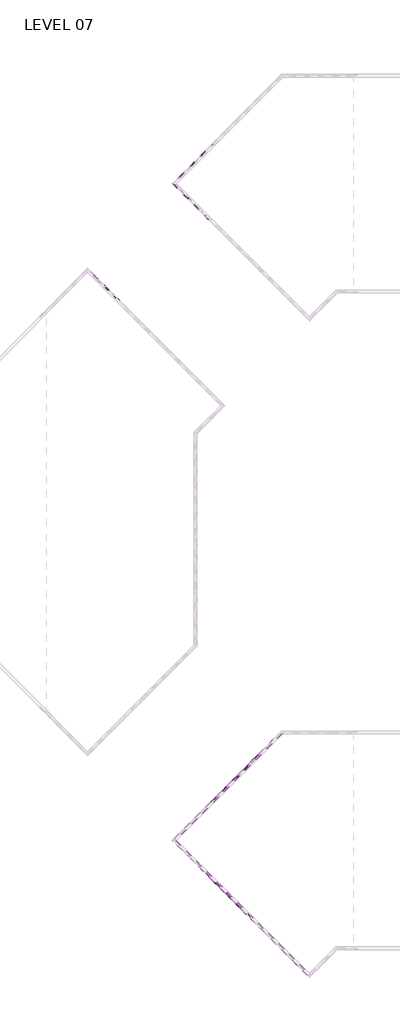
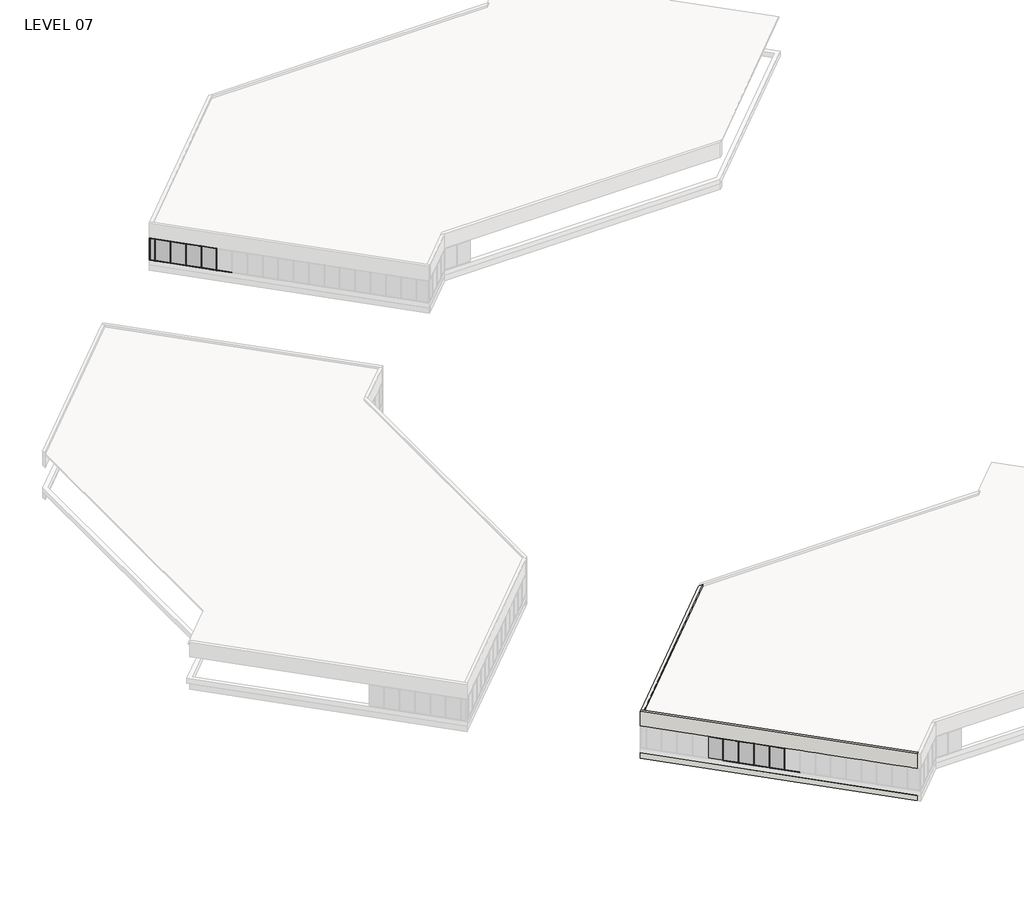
# One storey, part 7 of 18: 77 members, 24 plates, 4 walls.
"""IFC4 building model written with IfcOpenShell, lengths in millimetres."""

from ifc_helpers import new_model, si_unit, origin, place, context, project, spatial, faceted_brep, transform, mapped, element, save
from components import member_5247f267, member_e44af9ab, member_800970d4, member_ac5115e9, member_25b26a38, member_ed9c17d6, plate_67294edd, plate_048e4634, plate_aaac5d3d, plate_c01932d8, plate_6d527a83, plate_e0fd5134, plate_62af1d3c, plate_dca6a18a

model = new_model("IFC4")

# Units and contexts
model_context = context("Model", 3, world=origin())
ifc_project = project(units=[si_unit("LENGTHUNIT", "METRE", prefix="MILLI")], contexts=[model_context])

# Site, building, storey
site = spatial("IfcSite", under=ifc_project)
building = spatial("IfcBuilding", under=site)
storey = spatial("IfcBuildingStorey", under=building, Name="LEVEL 07", Elevation=23368.0)

# Members
placement = place(None, origin())
member_shape = member_5247f267(model_context)
element("IfcMember", 1, ObjectType="Rectangular Mullion : 2\" x 4.5\" rectangular", at=placement, inside=storey, context=model_context, shape_type="MappedRepresentation", body=[
    mapped(member_shape, transform((7242.502553, 22712.3915608, 23368.0), x_axis=(0.0, 0.0, -1.0), y_axis=(-0.7071067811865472, 0.7071067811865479, 0.0), z_axis=(0.7071067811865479, 0.7071067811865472, 0.0))),
])
element("IfcMember", 2, ObjectType="Rectangular Mullion : 2\" x 4.5\" rectangular", at=placement, inside=storey, context=model_context, shape_type="MappedRepresentation", body=[
    mapped(member_shape, transform((6164.8718185, 21634.7608262, 23368.0), x_axis=(0.0, 0.0, -1.0), y_axis=(-0.7071067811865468, 0.7071067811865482, 0.0), z_axis=(0.7071067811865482, 0.7071067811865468, 0.0))),
])
element("IfcMember", 3, ObjectType="Rectangular Mullion : 2\" x 4.5\" rectangular", at=placement, inside=storey, context=model_context, shape_type="MappedRepresentation", body=[
    mapped(member_shape, transform((4009.6251512, 19479.5141589, 23368.0), x_axis=(0.0, 0.0, -1.0), y_axis=(-0.7071067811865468, 0.7071067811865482, 0.0), z_axis=(0.7071067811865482, 0.7071067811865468, 0.0))),
])
element("IfcMember", 4, ObjectType="Rectangular Mullion : 2\" x 4.5\" rectangular", at=placement, inside=storey, context=model_context, shape_type="MappedRepresentation", body=[
    mapped(member_shape, transform((2932.0092184, 18401.8982261, 23368.0), x_axis=(0.0, 0.0, -1.0), y_axis=(-0.7071067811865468, 0.7071067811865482, 0.0), z_axis=(0.7071067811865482, 0.7071067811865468, 0.0))),
])
element("IfcMember", 5, ObjectType="Rectangular Mullion : 2\" x 4.5\" rectangular", at=placement, inside=storey, context=model_context, shape_type="MappedRepresentation", body=[
    mapped(member_shape, transform((1854.3932855, 17324.2822933, 23368.0), x_axis=(0.0, 0.0, -1.0), y_axis=(-0.7071067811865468, 0.7071067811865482, 0.0), z_axis=(0.7071067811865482, 0.7071067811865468, 0.0))),
])
element("IfcMember", 6, ObjectType="Rectangular Mullion : 2\" x 4.5\" rectangular", at=placement, inside=storey, context=model_context, shape_type="MappedRepresentation", body=[
    mapped(member_shape, transform((776.7773527, 16246.6663605, 23368.0), x_axis=(0.0, 0.0, -1.0), y_axis=(-0.7071067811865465, 0.7071067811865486, 0.0), z_axis=(0.7071067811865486, 0.7071067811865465, 0.0))),
])
element("IfcMember", 7, ObjectType="Rectangular Mullion : 2\" x 4.5\" rectangular", at=placement, inside=storey, context=model_context, shape_type="MappedRepresentation", body=[
    mapped(member_shape, transform((5087.2484848, 20557.1374926, 23368.0), x_axis=(0.0, 0.0, -1.0), y_axis=(-0.7071067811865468, 0.7071067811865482, 0.0), z_axis=(0.7071067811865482, 0.7071067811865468, 0.0))),
])
element("IfcMember", 8, ObjectType="Rectangular Mullion : 2\" x 4.5\" rectangular", at=placement, inside=storey, context=model_context, shape_type="MappedRepresentation", body=[
    mapped(member_shape, transform((812.6774444, 4705.5492921, 23368.0), x_axis=(0.0, 0.0, -1.0), y_axis=(-0.7071067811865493, -0.7071067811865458, 0.0), z_axis=(-0.7071067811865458, 0.7071067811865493, 0.0))),
])
element("IfcMember", 9, ObjectType="Rectangular Mullion : 2\" x 4.5\" rectangular", at=placement, inside=storey, context=model_context, shape_type="MappedRepresentation", body=[
    mapped(member_shape, transform((1890.2724444, 3627.9542921, 23368.0), x_axis=(0.0, 0.0, -1.0), y_axis=(-0.7071067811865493, -0.7071067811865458, 0.0), z_axis=(-0.7071067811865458, 0.7071067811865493, 0.0))),
])
element("IfcMember", 10, ObjectType="Rectangular Mullion : 2\" x 4.5\" rectangular", at=placement, inside=storey, context=model_context, shape_type="MappedRepresentation", body=[
    mapped(member_shape, transform((2967.8674444, 2550.3592921, 23368.0), x_axis=(0.0, 0.0, -1.0), y_axis=(-0.707106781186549, -0.7071067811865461, 0.0), z_axis=(-0.7071067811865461, 0.707106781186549, 0.0))),
])
element("IfcMember", 11, ObjectType="Rectangular Mullion : 2\" x 4.5\" rectangular", at=placement, inside=storey, context=model_context, shape_type="MappedRepresentation", body=[
    mapped(member_shape, transform((-3533.9094563, 105983.7989843, 23368.0), x_axis=(0.0, 0.0, -1.0), y_axis=(-0.7071067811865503, 0.7071067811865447, 0.0), z_axis=(0.7071067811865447, 0.7071067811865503, 0.0))),
])
element("IfcMember", 12, ObjectType="Rectangular Mullion : 2\" x 4.5\" rectangular", at=placement, inside=storey, context=model_context, shape_type="MappedRepresentation", body=[
    mapped(member_shape, transform((-301.0172527, 109216.6911879, 23368.0), x_axis=(0.0, 0.0, -1.0), y_axis=(-0.7071067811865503, 0.7071067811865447, 0.0), z_axis=(0.7071067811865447, 0.7071067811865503, 0.0))),
])
element("IfcMember", 13, ObjectType="Rectangular Mullion : 2\" x 4.5\" rectangular", at=placement, inside=storey, context=model_context, shape_type="MappedRepresentation", body=[
    mapped(member_shape, transform((-1378.6479872, 108139.0604533, 23368.0), x_axis=(0.0, 0.0, -1.0), y_axis=(-0.7071067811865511, 0.707106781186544, 0.0), z_axis=(0.707106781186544, 0.7071067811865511, 0.0))),
])
element("IfcMember", 14, ObjectType="Rectangular Mullion : 2\" x 4.5\" rectangular", at=placement, inside=storey, context=model_context, shape_type="MappedRepresentation", body=[
    mapped(member_shape, transform((-2456.2787218, 107061.4297188, 23368.0), x_axis=(0.0, 0.0, -1.0), y_axis=(-0.7071067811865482, 0.7071067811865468, 0.0), z_axis=(0.7071067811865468, 0.7071067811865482, 0.0))),
])
element("IfcMember", 15, ObjectType="Rectangular Mullion : 2\" x 4.5\" rectangular", at=placement, inside=storey, context=model_context, shape_type="MappedRepresentation", body=[
    mapped(member_shape, transform((-3497.8097592, 103063.8559285, 23368.0), x_axis=(0.0, 0.0, -1.0), y_axis=(-0.7071067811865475, -0.7071067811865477, 0.0), z_axis=(-0.7071067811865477, 0.7071067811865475, 0.0))),
])
element("IfcMember", 16, ObjectType="Rectangular Mullion : 2\" x 4.5\" rectangular", at=placement, inside=storey, context=model_context, shape_type="MappedRepresentation", body=[
    mapped(member_shape, transform((-2420.1790246, 101986.2251939, 23368.0), x_axis=(0.0, 0.0, -1.0), y_axis=(-0.7071067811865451, -0.7071067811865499, 0.0), z_axis=(-0.7071067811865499, 0.7071067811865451, 0.0))),
])
element("IfcMember", 17, ObjectType="Rectangular Mullion : 2\" x 4.5\" rectangular", at=placement, inside=storey, context=model_context, shape_type="MappedRepresentation", body=[
    mapped(member_shape, transform((-1342.5482901, 100908.5944594, 23368.0), x_axis=(0.0, 0.0, -1.0), y_axis=(-0.7071067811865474, -0.7071067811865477, 0.0), z_axis=(-0.7071067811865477, 0.7071067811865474, 0.0))),
])
element("IfcMember", 18, ObjectType="Rectangular Mullion : 2\" x 4.5\" rectangular", at=placement, inside=storey, context=model_context, shape_type="MappedRepresentation", body=[
    mapped(member_shape, transform((-264.9175556, 99830.9637249, 23368.0), x_axis=(0.0, 0.0, -1.0), y_axis=(-0.7071067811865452, -0.7071067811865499, 0.0), z_axis=(-0.7071067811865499, 0.7071067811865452, 0.0))),
])
element("IfcMember", 19, ObjectType="Rectangular Mullion : 2\" x 4.5\" rectangular", at=placement, inside=storey, context=model_context, shape_type="MappedRepresentation", body=[
    mapped(member_shape, transform((-4575.4404937, 104141.486663, 23368.0), x_axis=(0.0, 0.0, -1.0), y_axis=(-0.7071067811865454, -0.7071067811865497, 0.0), z_axis=(-0.7071067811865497, 0.7071067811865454, 0.0))),
])
element("IfcMember", 20, ObjectType="Rectangular Mullion : 2\" x 4.5\" rectangular", at=placement, inside=storey, context=model_context, shape_type="MappedRepresentation", body=[
    mapped(member_shape, transform((7278.4235775, 22748.3125852, 25958.8), x_axis=(0.0, 0.0, 1.0), y_axis=(-0.7071067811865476, 0.7071067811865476, 0.0), z_axis=(-0.7071067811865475, -0.7071067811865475, 0.0))),
])
element("IfcMember", 21, ObjectType="Rectangular Mullion : 2\" x 4.5\" rectangular", at=placement, inside=storey, context=model_context, shape_type="MappedRepresentation", body=[
    mapped(member_shape, transform((6200.792843, 21670.6818507, 25958.8), x_axis=(0.0, 0.0, 1.0), y_axis=(-0.7071067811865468, 0.7071067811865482, 0.0), z_axis=(-0.7071067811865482, -0.7071067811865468, 0.0))),
])
element("IfcMember", 22, ObjectType="Rectangular Mullion : 2\" x 4.5\" rectangular", at=placement, inside=storey, context=model_context, shape_type="MappedRepresentation", body=[
    mapped(member_shape, transform((4045.5461756, 19515.4351834, 25958.8), x_axis=(0.0, 0.0, 1.0), y_axis=(-0.7071067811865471, 0.7071067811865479, 0.0), z_axis=(-0.7071067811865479, -0.7071067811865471, 0.0))),
])
element("IfcMember", 23, ObjectType="Rectangular Mullion : 2\" x 4.5\" rectangular", at=placement, inside=storey, context=model_context, shape_type="MappedRepresentation", body=[
    mapped(member_shape, transform((2967.9302428, 18437.8192506, 25958.8), x_axis=(0.0, 0.0, 1.0), y_axis=(-0.7071067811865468, 0.7071067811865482, 0.0), z_axis=(-0.7071067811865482, -0.7071067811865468, 0.0))),
])
element("IfcMember", 24, ObjectType="Rectangular Mullion : 2\" x 4.5\" rectangular", at=placement, inside=storey, context=model_context, shape_type="MappedRepresentation", body=[
    mapped(member_shape, transform((1890.31431, 17360.2033178, 25958.8), x_axis=(0.0, 0.0, 1.0), y_axis=(-0.7071067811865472, 0.7071067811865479, 0.0), z_axis=(-0.7071067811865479, -0.7071067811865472, 0.0))),
])
element("IfcMember", 25, ObjectType="Rectangular Mullion : 2\" x 4.5\" rectangular", at=placement, inside=storey, context=model_context, shape_type="MappedRepresentation", body=[
    mapped(member_shape, transform((812.6983772, 16282.587385, 25958.8), x_axis=(0.0, 0.0, 1.0), y_axis=(-0.7071067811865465, 0.7071067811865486, 0.0), z_axis=(-0.7071067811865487, -0.7071067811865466, 0.0))),
])
element("IfcMember", 26, ObjectType="Rectangular Mullion : 2\" x 4.5\" rectangular", at=placement, inside=storey, context=model_context, shape_type="MappedRepresentation", body=[
    mapped(member_shape, transform((5123.1695093, 20593.058517, 25958.8), x_axis=(0.0, 0.0, 1.0), y_axis=(-0.7071067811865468, 0.7071067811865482, 0.0), z_axis=(-0.7071067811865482, -0.7071067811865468, 0.0))),
])
element("IfcMember", 27, ObjectType="Rectangular Mullion : 2\" x 4.5\" rectangular", at=placement, inside=storey, context=model_context, shape_type="MappedRepresentation", body=[
    mapped(member_shape, transform((776.7564199, 4741.4703165, 25958.8), x_axis=(0.0, 0.0, 1.0), y_axis=(-0.7071067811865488, -0.7071067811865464, 0.0), z_axis=(0.7071067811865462, -0.7071067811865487, 0.0))),
])
element("IfcMember", 28, ObjectType="Rectangular Mullion : 2\" x 4.5\" rectangular", at=placement, inside=storey, context=model_context, shape_type="MappedRepresentation", body=[
    mapped(member_shape, transform((1854.3514199, 3663.8753165, 25958.8), x_axis=(0.0, 0.0, 1.0), y_axis=(-0.7071067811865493, -0.7071067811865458, 0.0), z_axis=(0.7071067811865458, -0.7071067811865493, 0.0))),
])
element("IfcMember", 29, ObjectType="Rectangular Mullion : 2\" x 4.5\" rectangular", at=placement, inside=storey, context=model_context, shape_type="MappedRepresentation", body=[
    mapped(member_shape, transform((2931.9464199, 2586.2803165, 25958.8), x_axis=(0.0, 0.0, 1.0), y_axis=(-0.7071067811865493, -0.7071067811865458, 0.0), z_axis=(0.7071067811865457, -0.7071067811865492, 0.0))),
])
element("IfcMember", 30, ObjectType="Rectangular Mullion : 2\" x 4.5\" rectangular", at=placement, inside=storey, context=model_context, shape_type="MappedRepresentation", body=[
    mapped(member_shape, transform((4009.5414199, 1508.6853165, 25958.8), x_axis=(0.0, 0.0, 1.0), y_axis=(-0.7071067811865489, -0.7071067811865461, 0.0), z_axis=(0.7071067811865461, -0.7071067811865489, 0.0))),
])
element("IfcMember", 31, ObjectType="Rectangular Mullion : 2\" x 4.5\" rectangular", at=placement, inside=storey, context=model_context, shape_type="MappedRepresentation", body=[
    mapped(member_shape, transform((-3497.9884318, 106019.7200088, 25958.8), x_axis=(0.0, 0.0, 1.0), y_axis=(-0.7071067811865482, 0.7071067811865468, 0.0), z_axis=(-0.7071067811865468, -0.7071067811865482, 0.0))),
])
element("IfcMember", 32, ObjectType="Rectangular Mullion : 2\" x 4.5\" rectangular", at=placement, inside=storey, context=model_context, shape_type="MappedRepresentation", body=[
    mapped(member_shape, transform((-265.0962282, 109252.6122123, 25958.8), x_axis=(0.0, 0.0, 1.0), y_axis=(-0.7071067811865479, 0.7071067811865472, 0.0), z_axis=(-0.7071067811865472, -0.7071067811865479, 0.0))),
])
element("IfcMember", 33, ObjectType="Rectangular Mullion : 2\" x 4.5\" rectangular", at=placement, inside=storey, context=model_context, shape_type="MappedRepresentation", body=[
    mapped(member_shape, transform((-1342.7269627, 108174.9814778, 25958.8), x_axis=(0.0, 0.0, 1.0), y_axis=(-0.7071067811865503, 0.7071067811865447, 0.0), z_axis=(-0.7071067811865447, -0.7071067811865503, 0.0))),
])
element("IfcMember", 34, ObjectType="Rectangular Mullion : 2\" x 4.5\" rectangular", at=placement, inside=storey, context=model_context, shape_type="MappedRepresentation", body=[
    mapped(member_shape, transform((-2420.3576973, 107097.3507433, 25958.8), x_axis=(0.0, 0.0, 1.0), y_axis=(-0.7071067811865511, 0.707106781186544, 0.0), z_axis=(-0.707106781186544, -0.7071067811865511, 0.0))),
])
element("IfcMember", 35, ObjectType="Rectangular Mullion : 2\" x 4.5\" rectangular", at=placement, inside=storey, context=model_context, shape_type="MappedRepresentation", body=[
    mapped(member_shape, transform((-4575.6191663, 104942.0892742, 25958.8), x_axis=(0.0, 0.0, 1.0), y_axis=(-0.7071067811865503, 0.7071067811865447, 0.0), z_axis=(-0.7071067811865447, -0.7071067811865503, 0.0))),
])
element("IfcMember", 36, ObjectType="Rectangular Mullion : 2\" x 4.5\" rectangular", at=placement, inside=storey, context=model_context, shape_type="MappedRepresentation", body=[
    mapped(member_shape, transform((-3533.7307836, 103099.7769529, 25958.8), x_axis=(0.0, 0.0, 1.0), y_axis=(-0.7071067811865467, -0.7071067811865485, 0.0), z_axis=(0.7071067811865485, -0.7071067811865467, 0.0))),
])
element("IfcMember", 37, ObjectType="Rectangular Mullion : 2\" x 4.5\" rectangular", at=placement, inside=storey, context=model_context, shape_type="MappedRepresentation", body=[
    mapped(member_shape, transform((-2456.1000491, 102022.1462184, 25958.8), x_axis=(0.0, 0.0, 1.0), y_axis=(-0.7071067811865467, -0.7071067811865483, 0.0), z_axis=(0.7071067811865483, -0.7071067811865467, 0.0))),
])
element("IfcMember", 38, ObjectType="Rectangular Mullion : 2\" x 4.5\" rectangular", at=placement, inside=storey, context=model_context, shape_type="MappedRepresentation", body=[
    mapped(member_shape, transform((-1378.4693146, 100944.5154839, 25958.8), x_axis=(0.0, 0.0, 1.0), y_axis=(-0.707106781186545, -0.7071067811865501, 0.0), z_axis=(0.7071067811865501, -0.707106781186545, 0.0))),
])
element("IfcMember", 39, ObjectType="Rectangular Mullion : 2\" x 4.5\" rectangular", at=placement, inside=storey, context=model_context, shape_type="MappedRepresentation", body=[
    mapped(member_shape, transform((-300.8385801, 99866.8847494, 25958.8), x_axis=(0.0, 0.0, 1.0), y_axis=(-0.7071067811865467, -0.7071067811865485, 0.0), z_axis=(0.7071067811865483, -0.7071067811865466, 0.0))),
])
member_2_shape = member_e44af9ab(model_context)
element("IfcMember", 40, ObjectType="Rectangular Mullion : 2\" x 4.5\" rectangular", at=placement, inside=storey, context=model_context, shape_type="MappedRepresentation", body=[
    mapped(member_2_shape, transform((6182.8323307, 21652.7213385, 23368.0), x_axis=(-0.7071067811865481, -0.7071067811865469, 0.0), y_axis=(-0.7071067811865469, 0.7071067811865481, 0.0), z_axis=(0.0, 0.0, -1.0))),
])
element("IfcMember", 41, ObjectType="Rectangular Mullion : 2\" x 4.5\" rectangular", at=placement, inside=storey, context=model_context, shape_type="MappedRepresentation", body=[
    mapped(member_2_shape, transform((4027.5856634, 19497.4746711, 23368.0), x_axis=(-0.7071067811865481, -0.7071067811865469, 0.0), y_axis=(-0.7071067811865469, 0.7071067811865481, 0.0), z_axis=(0.0, 0.0, -1.0))),
])
element("IfcMember", 42, ObjectType="Rectangular Mullion : 2\" x 4.5\" rectangular", at=placement, inside=storey, context=model_context, shape_type="MappedRepresentation", body=[
    mapped(member_2_shape, transform((2949.9697306, 18419.8587383, 23368.0), x_axis=(-0.7071067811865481, -0.7071067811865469, 0.0), y_axis=(-0.7071067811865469, 0.7071067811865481, 0.0), z_axis=(0.0, 0.0, -1.0))),
])
element("IfcMember", 43, ObjectType="Rectangular Mullion : 2\" x 4.5\" rectangular", at=placement, inside=storey, context=model_context, shape_type="MappedRepresentation", body=[
    mapped(member_2_shape, transform((1872.3537978, 17342.2428055, 23368.0), x_axis=(-0.7071067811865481, -0.7071067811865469, 0.0), y_axis=(-0.7071067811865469, 0.7071067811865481, 0.0), z_axis=(0.0, 0.0, -1.0))),
])
element("IfcMember", 44, ObjectType="Rectangular Mullion : 2\" x 4.5\" rectangular", at=placement, inside=storey, context=model_context, shape_type="MappedRepresentation", body=[
    mapped(member_2_shape, transform((794.737865, 16264.6268727, 23368.0), x_axis=(-0.7071067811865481, -0.7071067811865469, 0.0), y_axis=(-0.7071067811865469, 0.7071067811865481, 0.0), z_axis=(0.0, 0.0, -1.0))),
])
element("IfcMember", 45, ObjectType="Rectangular Mullion : 2\" x 4.5\" rectangular", at=placement, inside=storey, context=model_context, shape_type="MappedRepresentation", body=[
    mapped(member_2_shape, transform((5105.2089971, 20575.0980048, 23368.0), x_axis=(-0.7071067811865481, -0.7071067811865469, 0.0), y_axis=(-0.7071067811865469, 0.7071067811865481, 0.0), z_axis=(0.0, 0.0, -1.0))),
])
element("IfcMember", 46, ObjectType="Rectangular Mullion : 2\" x 4.5\" rectangular", at=placement, inside=storey, context=model_context, shape_type="MappedRepresentation", body=[
    mapped(member_2_shape, transform((794.7169322, 4723.5098043, 23368.0), x_axis=(0.7071067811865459, -0.7071067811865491, 0.0), y_axis=(-0.7071067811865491, -0.7071067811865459, 0.0), z_axis=(0.0, 0.0, -1.0))),
])
element("IfcMember", 47, ObjectType="Rectangular Mullion : 2\" x 4.5\" rectangular", at=placement, inside=storey, context=model_context, shape_type="MappedRepresentation", body=[
    mapped(member_2_shape, transform((1872.3119322, 3645.9148043, 23368.0), x_axis=(0.7071067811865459, -0.7071067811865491, 0.0), y_axis=(-0.7071067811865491, -0.7071067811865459, 0.0), z_axis=(0.0, 0.0, -1.0))),
])
element("IfcMember", 48, ObjectType="Rectangular Mullion : 2\" x 4.5\" rectangular", at=placement, inside=storey, context=model_context, shape_type="MappedRepresentation", body=[
    mapped(member_2_shape, transform((2949.9069322, 2568.3198043, 23368.0), x_axis=(0.7071067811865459, -0.7071067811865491, 0.0), y_axis=(-0.7071067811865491, -0.7071067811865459, 0.0), z_axis=(0.0, 0.0, -1.0))),
])
element("IfcMember", 49, ObjectType="Rectangular Mullion : 2\" x 4.5\" rectangular", at=placement, inside=storey, context=model_context, shape_type="MappedRepresentation", body=[
    mapped(member_2_shape, transform((4027.5019322, 1490.7248043, 23368.0), x_axis=(0.7071067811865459, -0.7071067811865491, 0.0), y_axis=(-0.7071067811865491, -0.7071067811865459, 0.0), z_axis=(0.0, 0.0, -1.0))),
])
element("IfcMember", 50, ObjectType="Rectangular Mullion : 2\" x 4.5\" rectangular", at=placement, inside=storey, context=model_context, shape_type="MappedRepresentation", body=[
    mapped(member_2_shape, transform((5102.1211371, 416.1055994, 23368.0), x_axis=(0.7071067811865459, -0.7071067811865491, 0.0), y_axis=(-0.7071067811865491, -0.7071067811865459, 0.0), z_axis=(0.0, 0.0, -1.0))),
])
element("IfcMember", 51, ObjectType="Rectangular Mullion : 2\" x 4.5\" rectangular", at=placement, inside=storey, context=model_context, shape_type="MappedRepresentation", body=[
    mapped(member_2_shape, transform((-3515.948944, 106001.7594965, 23368.0), x_axis=(-0.7071067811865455, -0.7071067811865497, 0.0), y_axis=(-0.7071067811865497, 0.7071067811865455, 0.0), z_axis=(0.0, 0.0, -1.0))),
])
element("IfcMember", 52, ObjectType="Rectangular Mullion : 2\" x 4.5\" rectangular", at=placement, inside=storey, context=model_context, shape_type="MappedRepresentation", body=[
    mapped(member_2_shape, transform((-283.0567405, 109234.6517001, 23368.0), x_axis=(-0.7071067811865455, -0.7071067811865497, 0.0), y_axis=(-0.7071067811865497, 0.7071067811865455, 0.0), z_axis=(0.0, 0.0, -1.0))),
])
element("IfcMember", 53, ObjectType="Rectangular Mullion : 2\" x 4.5\" rectangular", at=placement, inside=storey, context=model_context, shape_type="MappedRepresentation", body=[
    mapped(member_2_shape, transform((-1360.687475, 108157.0209656, 23368.0), x_axis=(-0.7071067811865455, -0.7071067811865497, 0.0), y_axis=(-0.7071067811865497, 0.7071067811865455, 0.0), z_axis=(0.0, 0.0, -1.0))),
])
element("IfcMember", 54, ObjectType="Rectangular Mullion : 2\" x 4.5\" rectangular", at=placement, inside=storey, context=model_context, shape_type="MappedRepresentation", body=[
    mapped(member_2_shape, transform((-2438.3182095, 107079.390231, 23368.0), x_axis=(-0.7071067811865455, -0.7071067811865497, 0.0), y_axis=(-0.7071067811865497, 0.7071067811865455, 0.0), z_axis=(0.0, 0.0, -1.0))),
])
element("IfcMember", 55, ObjectType="Rectangular Mullion : 2\" x 4.5\" rectangular", at=placement, inside=storey, context=model_context, shape_type="MappedRepresentation", body=[
    mapped(member_2_shape, transform((-4593.5796786, 104924.128762, 23368.0), x_axis=(-0.7071067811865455, -0.7071067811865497, 0.0), y_axis=(-0.7071067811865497, 0.7071067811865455, 0.0), z_axis=(0.0, 0.0, -1.0))),
])
element("IfcMember", 56, ObjectType="Rectangular Mullion : 2\" x 4.5\" rectangular", at=placement, inside=storey, context=model_context, shape_type="MappedRepresentation", body=[
    mapped(member_2_shape, transform((-3515.7702714, 103081.8164407, 23368.0), x_axis=(0.7071067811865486, -0.7071067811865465, 0.0), y_axis=(-0.7071067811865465, -0.7071067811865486, 0.0), z_axis=(0.0, 0.0, -1.0))),
])
element("IfcMember", 57, ObjectType="Rectangular Mullion : 2\" x 4.5\" rectangular", at=placement, inside=storey, context=model_context, shape_type="MappedRepresentation", body=[
    mapped(member_2_shape, transform((-2438.1395369, 102004.1857062, 23368.0), x_axis=(0.7071067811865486, -0.7071067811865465, 0.0), y_axis=(-0.7071067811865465, -0.7071067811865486, 0.0), z_axis=(0.0, 0.0, -1.0))),
])
element("IfcMember", 58, ObjectType="Rectangular Mullion : 2\" x 4.5\" rectangular", at=placement, inside=storey, context=model_context, shape_type="MappedRepresentation", body=[
    mapped(member_2_shape, transform((-1360.5088023, 100926.5549716, 23368.0), x_axis=(0.7071067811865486, -0.7071067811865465, 0.0), y_axis=(-0.7071067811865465, -0.7071067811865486, 0.0), z_axis=(0.0, 0.0, -1.0))),
])
element("IfcMember", 59, ObjectType="Rectangular Mullion : 2\" x 4.5\" rectangular", at=placement, inside=storey, context=model_context, shape_type="MappedRepresentation", body=[
    mapped(member_2_shape, transform((-282.8780678, 99848.9242371, 23368.0), x_axis=(0.7071067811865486, -0.7071067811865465, 0.0), y_axis=(-0.7071067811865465, -0.7071067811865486, 0.0), z_axis=(0.0, 0.0, -1.0))),
])
element("IfcMember", 60, ObjectType="Rectangular Mullion : 2\" x 4.5\" rectangular", at=placement, inside=storey, context=model_context, shape_type="MappedRepresentation", body=[
    mapped(member_2_shape, transform((-4593.4010059, 104159.4471752, 23368.0), x_axis=(0.7071067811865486, -0.7071067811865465, 0.0), y_axis=(-0.7071067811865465, -0.7071067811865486, 0.0), z_axis=(0.0, 0.0, -1.0))),
])
member_3_shape = member_800970d4(model_context)
element("IfcMember", 61, ObjectType="Rectangular Mullion : 2\" x 4.5\" rectangular", at=placement, inside=storey, context=model_context, shape_type="MappedRepresentation", body=[
    mapped(member_3_shape, transform((-4975.8311356, 104541.8773049, 23368.0), x_axis=(-0.7071067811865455, -0.7071067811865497, 0.0), y_axis=(-0.7071067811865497, 0.7071067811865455, 0.0), z_axis=(0.0, 0.0, -1.0))),
])
element("IfcMember", 62, ObjectType="Rectangular Mullion : 2\" x 4.5\" rectangular", at=placement, inside=storey, context=model_context, shape_type="MappedRepresentation", body=[
    mapped(member_3_shape, transform((-4975.8311356, 104541.8773049, 25958.8), x_axis=(-0.7071067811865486, 0.7071067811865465, 0.0), y_axis=(-0.7071067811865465, -0.7071067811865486, 0.0), z_axis=(0.0, 0.0, 1.0))),
])
member_4_shape = member_ac5115e9(model_context)
element("IfcMember", 63, ObjectType="Rectangular Mullion : 2\" x 4.5\" rectangular", at=placement, inside=storey, context=model_context, shape_type="MappedRepresentation", body=[
    mapped(member_4_shape, transform((-4939.9101111, 104577.7983294, 25958.8), x_axis=(0.0, 0.0, 1.0), y_axis=(-0.7071067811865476, 0.7071067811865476, 0.0), z_axis=(-0.7071067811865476, -0.7071067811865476, 0.0))),
])
element("IfcMember", 64, ObjectType="Rectangular Mullion : 2\" x 4.5\" rectangular", at=placement, inside=storey, context=model_context, shape_type="MappedRepresentation", body=[
    mapped(member_4_shape, transform((-4611.5401908, 104906.1682497, 23368.0), x_axis=(0.0, 0.0, -1.0), y_axis=(-0.7071067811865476, 0.7071067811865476, 0.0), z_axis=(0.7071067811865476, 0.7071067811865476, 0.0))),
])
member_5_shape = member_25b26a38(model_context)
element("IfcMember", 65, ObjectType="Rectangular Mullion : 2\" x 4.5\" rectangular", at=placement, inside=storey, context=model_context, shape_type="MappedRepresentation", body=[
    mapped(member_5_shape, transform((-4939.9101111, 104505.9562804, 23368.0), x_axis=(0.0, 0.0, -1.0), y_axis=(-0.7071067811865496, -0.7071067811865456, 0.0), z_axis=(-0.7071067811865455, 0.7071067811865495, 0.0))),
])
element("IfcMember", 66, ObjectType="Rectangular Mullion : 2\" x 4.5\" rectangular", at=placement, inside=storey, context=model_context, shape_type="MappedRepresentation", body=[
    mapped(member_5_shape, transform((-4611.3615182, 104177.4076875, 25958.8), x_axis=(0.0, 0.0, 1.0), y_axis=(-0.707106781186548, -0.707106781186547, 0.0), z_axis=(0.707106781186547, -0.707106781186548, 0.0))),
])
member_6_shape = member_ed9c17d6(model_context)
element("IfcMember", 67, ObjectType="Rectangular Mullion : 2\" x 4.5\" rectangular", at=placement, inside=storey, context=model_context, shape_type="MappedRepresentation", body=[
    mapped(member_6_shape, transform((5084.1606248, 434.0661116, 25958.8), x_axis=(0.0, 0.0, 1.0), y_axis=(-0.7071067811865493, -0.7071067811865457, 0.0), z_axis=(0.7071067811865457, -0.7071067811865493, 0.0))),
])
element("IfcMember", 68, ObjectType="Rectangular Mullion : 2\" x 4.5\" rectangular", at=placement, inside=storey, context=model_context, shape_type="MappedRepresentation", body=[
    mapped(member_6_shape, transform((4045.4624444, 1472.7642921, 23368.0), x_axis=(0.0, 0.0, -1.0), y_axis=(-0.7071067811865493, -0.7071067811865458, 0.0), z_axis=(-0.7071067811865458, 0.7071067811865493, 0.0))),
])
element("IfcMember", 69, ObjectType="Rectangular Mullion : 2\" x 4.5\" rectangular", at=placement, inside=storey, context=model_context, shape_type="MappedRepresentation", body=[
    mapped(member_6_shape, transform((5120.0816493, 398.1450872, 23368.0), x_axis=(0.0, 0.0, -1.0), y_axis=(-0.7071067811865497, -0.7071067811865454, 0.0), z_axis=(-0.7071067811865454, 0.7071067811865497, 0.0))),
])
element("IfcMember", 70, ObjectType="Rectangular Mullion : 2\" x 4.5\" rectangular", at=placement, inside=storey, context=model_context, shape_type="MappedRepresentation", body=[
    mapped(member_shape, transform((-15755.8593644, 90877.6483722, 25958.8), x_axis=(0.0, 0.0, 1.0), y_axis=(-0.7071067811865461, -0.707106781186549, 0.0), z_axis=(0.707106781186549, -0.7071067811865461, 0.0))),
])
element("IfcMember", 71, ObjectType="Rectangular Mullion : 2\" x 4.5\" rectangular", at=placement, inside=storey, context=model_context, shape_type="MappedRepresentation", body=[
    mapped(member_shape, transform((-13600.5978954, 88722.3869031, 25958.8), x_axis=(0.0, 0.0, 1.0), y_axis=(-0.7071067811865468, -0.7071067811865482, 0.0), z_axis=(0.7071067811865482, -0.7071067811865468, 0.0))),
])
element("IfcMember", 72, ObjectType="Rectangular Mullion : 2\" x 4.5\" rectangular", at=placement, inside=storey, context=model_context, shape_type="MappedRepresentation", body=[
    mapped(member_shape, transform((-15719.9383399, 90841.7273477, 23368.0), x_axis=(0.0, 0.0, -1.0), y_axis=(-0.7071067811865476, -0.7071067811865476, 0.0), z_axis=(-0.7071067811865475, 0.7071067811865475, 0.0))),
])
element("IfcMember", 73, ObjectType="Rectangular Mullion : 2\" x 4.5\" rectangular", at=placement, inside=storey, context=model_context, shape_type="MappedRepresentation", body=[
    mapped(member_shape, transform((-14642.3076054, 89764.0966131, 23368.0), x_axis=(0.0, 0.0, -1.0), y_axis=(-0.707106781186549, -0.7071067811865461, 0.0), z_axis=(-0.7071067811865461, 0.707106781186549, 0.0))),
])
element("IfcMember", 74, ObjectType="Rectangular Mullion : 2\" x 4.5\" rectangular", at=placement, inside=storey, context=model_context, shape_type="MappedRepresentation", body=[
    mapped(member_shape, transform((-13564.6768709, 88686.4658786, 23368.0), x_axis=(0.0, 0.0, -1.0), y_axis=(-0.7071067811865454, -0.7071067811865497, 0.0), z_axis=(-0.7071067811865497, 0.7071067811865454, 0.0))),
])
element("IfcMember", 75, ObjectType="Rectangular Mullion : 2\" x 4.5\" rectangular", at=placement, inside=storey, context=model_context, shape_type="MappedRepresentation", body=[
    mapped(member_2_shape, transform((-15737.8988522, 90859.6878599, 23368.0), x_axis=(0.707106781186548, -0.7071067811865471, 0.0), y_axis=(-0.7071067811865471, -0.707106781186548, 0.0), z_axis=(0.0, 0.0, -1.0))),
])
element("IfcMember", 76, ObjectType="Rectangular Mullion : 2\" x 4.5\" rectangular", at=placement, inside=storey, context=model_context, shape_type="MappedRepresentation", body=[
    mapped(member_2_shape, transform((-14660.2681176, 89782.0571254, 23368.0), x_axis=(0.707106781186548, -0.7071067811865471, 0.0), y_axis=(-0.7071067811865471, -0.707106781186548, 0.0), z_axis=(0.0, 0.0, -1.0))),
])
element("IfcMember", 77, ObjectType="Rectangular Mullion : 2\" x 4.5\" rectangular", at=placement, inside=storey, context=model_context, shape_type="MappedRepresentation", body=[
    mapped(member_2_shape, transform((-13582.6373831, 88704.4263909, 23368.0), x_axis=(0.707106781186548, -0.7071067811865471, 0.0), y_axis=(-0.7071067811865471, -0.707106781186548, 0.0), z_axis=(0.0, 0.0, -1.0))),
])

# Plates
plate_shape = plate_67294edd(model_context)
element("IfcPlate", 78, ObjectType="System Panel : 1/4\" Glass", at=placement, inside=storey, context=model_context, shape_type="MappedRepresentation", body=[
    mapped(plate_shape, transform((6721.647698, 22191.5367057, 23418.8), x_axis=(-0.7071067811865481, -0.7071067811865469, 0.0), y_axis=(0.7071067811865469, -0.7071067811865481, 0.0), z_axis=(0.0, 0.0, 1.0))),
])
element("IfcPlate", 79, ObjectType="System Panel : 1/4\" Glass", at=placement, inside=storey, context=model_context, shape_type="MappedRepresentation", body=[
    mapped(plate_shape, transform((-4054.7643113, 105462.9441292, 23418.8), x_axis=(-0.7071067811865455, -0.7071067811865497, 0.0), y_axis=(0.7071067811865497, -0.7071067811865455, 0.0), z_axis=(0.0, 0.0, 1.0))),
])
element("IfcPlate", 80, ObjectType="System Panel : 1/4\" Glass", at=placement, inside=storey, context=model_context, shape_type="MappedRepresentation", body=[
    mapped(plate_shape, transform((-821.8721077, 108695.8363328, 23418.8), x_axis=(-0.7071067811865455, -0.7071067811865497, 0.0), y_axis=(0.7071067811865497, -0.7071067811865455, 0.0), z_axis=(0.0, 0.0, 1.0))),
])
element("IfcPlate", 81, ObjectType="System Panel : 1/4\" Glass", at=placement, inside=storey, context=model_context, shape_type="MappedRepresentation", body=[
    mapped(plate_shape, transform((-1899.5028422, 107618.2055983, 23418.8), x_axis=(-0.7071067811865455, -0.7071067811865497, 0.0), y_axis=(0.7071067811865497, -0.7071067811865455, 0.0), z_axis=(0.0, 0.0, 1.0))),
])
element("IfcPlate", 82, ObjectType="System Panel : 1/4\" Glass", at=placement, inside=storey, context=model_context, shape_type="MappedRepresentation", body=[
    mapped(plate_shape, transform((-2977.1335768, 106540.5748638, 23418.8), x_axis=(-0.7071067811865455, -0.7071067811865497, 0.0), y_axis=(0.7071067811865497, -0.7071067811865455, 0.0), z_axis=(0.0, 0.0, 1.0))),
])
element("IfcPlate", 83, ObjectType="System Panel : 1/4\" Glass", at=placement, inside=storey, context=model_context, shape_type="MappedRepresentation", body=[
    mapped(plate_shape, transform((-2976.9549041, 102543.0010734, 23418.8), x_axis=(0.7071067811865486, -0.7071067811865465, 0.0), y_axis=(0.7071067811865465, 0.7071067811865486, 0.0), z_axis=(0.0, 0.0, 1.0))),
])
element("IfcPlate", 84, ObjectType="System Panel : 1/4\" Glass", at=placement, inside=storey, context=model_context, shape_type="MappedRepresentation", body=[
    mapped(plate_shape, transform((-1899.3241696, 101465.3703389, 23418.8), x_axis=(0.7071067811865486, -0.7071067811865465, 0.0), y_axis=(0.7071067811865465, 0.7071067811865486, 0.0), z_axis=(0.0, 0.0, 1.0))),
])
element("IfcPlate", 85, ObjectType="System Panel : 1/4\" Glass", at=placement, inside=storey, context=model_context, shape_type="MappedRepresentation", body=[
    mapped(plate_shape, transform((-821.6934351, 100387.7396044, 23418.8), x_axis=(0.7071067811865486, -0.7071067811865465, 0.0), y_axis=(0.7071067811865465, 0.7071067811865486, 0.0), z_axis=(0.0, 0.0, 1.0))),
])
element("IfcPlate", 86, ObjectType="System Panel : 1/4\" Glass", at=placement, inside=storey, context=model_context, shape_type="MappedRepresentation", body=[
    mapped(plate_shape, transform((-4054.5856387, 103620.631808, 23418.8), x_axis=(0.7071067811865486, -0.7071067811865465, 0.0), y_axis=(0.7071067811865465, 0.7071067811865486, 0.0), z_axis=(0.0, 0.0, 1.0))),
])
plate_2_shape = plate_048e4634(model_context)
element("IfcPlate", 87, ObjectType="System Panel : 1/4\" Glass", at=placement, inside=storey, context=model_context, shape_type="MappedRepresentation", body=[
    mapped(plate_2_shape, transform((1333.5144322, 4184.7123043, 23418.8), x_axis=(0.7071067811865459, -0.7071067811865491, 0.0), y_axis=(0.7071067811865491, 0.7071067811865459, 0.0), z_axis=(0.0, 0.0, 1.0))),
])
element("IfcPlate", 88, ObjectType="System Panel : 1/4\" Glass", at=placement, inside=storey, context=model_context, shape_type="MappedRepresentation", body=[
    mapped(plate_2_shape, transform((2411.1094322, 3107.1173043, 23418.8), x_axis=(0.7071067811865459, -0.7071067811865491, 0.0), y_axis=(0.7071067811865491, 0.7071067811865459, 0.0), z_axis=(0.0, 0.0, 1.0))),
])
element("IfcPlate", 89, ObjectType="System Panel : 1/4\" Glass", at=placement, inside=storey, context=model_context, shape_type="MappedRepresentation", body=[
    mapped(plate_2_shape, transform((3488.7044322, 2029.5223043, 23418.8), x_axis=(0.7071067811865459, -0.7071067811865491, 0.0), y_axis=(0.7071067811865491, 0.7071067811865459, 0.0), z_axis=(0.0, 0.0, 1.0))),
])
plate_3_shape = plate_aaac5d3d(model_context)
element("IfcPlate", 90, ObjectType="System Panel : 1/4\" Glass", at=placement, inside=storey, context=model_context, shape_type="MappedRepresentation", body=[
    mapped(plate_3_shape, transform((3488.777697, 18958.6667047, 23418.8), x_axis=(-0.7071067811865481, -0.7071067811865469, 0.0), y_axis=(0.7071067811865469, -0.7071067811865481, 0.0), z_axis=(0.0, 0.0, 1.0))),
])
element("IfcPlate", 91, ObjectType="System Panel : 1/4\" Glass", at=placement, inside=storey, context=model_context, shape_type="MappedRepresentation", body=[
    mapped(plate_3_shape, transform((2411.1617642, 17881.0507719, 23418.8), x_axis=(-0.7071067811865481, -0.7071067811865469, 0.0), y_axis=(0.7071067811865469, -0.7071067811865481, 0.0), z_axis=(0.0, 0.0, 1.0))),
])
element("IfcPlate", 92, ObjectType="System Panel : 1/4\" Glass", at=placement, inside=storey, context=model_context, shape_type="MappedRepresentation", body=[
    mapped(plate_3_shape, transform((1333.5458314, 16803.4348391, 23418.8), x_axis=(-0.7071067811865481, -0.7071067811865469, 0.0), y_axis=(0.7071067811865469, -0.7071067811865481, 0.0), z_axis=(0.0, 0.0, 1.0))),
])
plate_4_shape = plate_c01932d8(model_context)
element("IfcPlate", 93, ObjectType="System Panel : 1/4\" Glass", at=placement, inside=storey, context=model_context, shape_type="MappedRepresentation", body=[
    mapped(plate_4_shape, transform((-4775.725151, 104741.9832896, 23418.8), x_axis=(-0.7071067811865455, -0.7071067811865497, 0.0), y_axis=(0.7071067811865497, -0.7071067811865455, 0.0), z_axis=(0.0, 0.0, 1.0))),
])
plate_5_shape = plate_6d527a83(model_context)
element("IfcPlate", 94, ObjectType="System Panel : 1/4\" Glass", at=placement, inside=storey, context=model_context, shape_type="MappedRepresentation", body=[
    mapped(plate_5_shape, transform((-4775.6358147, 104341.681984, 23418.8), x_axis=(0.7071067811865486, -0.7071067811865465, 0.0), y_axis=(0.7071067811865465, 0.7071067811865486, 0.0), z_axis=(0.0, 0.0, 1.0))),
])
plate_6_shape = plate_e0fd5134(model_context)
element("IfcPlate", 95, ObjectType="System Panel : 1/4\" Glass", at=placement, inside=storey, context=model_context, shape_type="MappedRepresentation", body=[
    mapped(plate_6_shape, transform((5644.0206639, 21113.9096716, 23418.8), x_axis=(-0.7071067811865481, -0.7071067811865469, 0.0), y_axis=(0.7071067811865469, -0.7071067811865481, 0.0), z_axis=(0.0, 0.0, 1.0))),
])
element("IfcPlate", 96, ObjectType="System Panel : 1/4\" Glass", at=placement, inside=storey, context=model_context, shape_type="MappedRepresentation", body=[
    mapped(plate_6_shape, transform((255.9261982, 15725.8152059, 23418.8), x_axis=(-0.7071067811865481, -0.7071067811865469, 0.0), y_axis=(0.7071067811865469, -0.7071067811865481, 0.0), z_axis=(0.0, 0.0, 1.0))),
])
element("IfcPlate", 97, ObjectType="System Panel : 1/4\" Glass", at=placement, inside=storey, context=model_context, shape_type="MappedRepresentation", body=[
    mapped(plate_6_shape, transform((4566.3973302, 20036.286338, 23418.8), x_axis=(-0.7071067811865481, -0.7071067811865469, 0.0), y_axis=(0.7071067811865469, -0.7071067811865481, 0.0), z_axis=(0.0, 0.0, 1.0))),
])
plate_7_shape = plate_62af1d3c(model_context)
element("IfcPlate", 98, ObjectType="System Panel : 1/4\" Glass", at=placement, inside=storey, context=model_context, shape_type="MappedRepresentation", body=[
    mapped(plate_7_shape, transform((255.9104986, 5262.3162379, 23418.8), x_axis=(0.7071067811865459, -0.7071067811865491, 0.0), y_axis=(0.7071067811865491, 0.7071067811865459, 0.0), z_axis=(0.0, 0.0, 1.0))),
])
plate_8_shape = plate_dca6a18a(model_context)
element("IfcPlate", 99, ObjectType="System Panel : 1/4\" Glass", at=placement, inside=storey, context=model_context, shape_type="MappedRepresentation", body=[
    mapped(plate_8_shape, transform((4564.8115346, 953.4152019, 23418.8), x_axis=(0.7071067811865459, -0.7071067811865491, 0.0), y_axis=(0.7071067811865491, 0.7071067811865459, 0.0), z_axis=(0.0, 0.0, 1.0))),
])
element("IfcPlate", 100, ObjectType="System Panel : 1/4\" Glass", at=placement, inside=storey, context=model_context, shape_type="MappedRepresentation", body=[
    mapped(plate_shape, transform((-15199.0834849, 90320.8724927, 23418.8), x_axis=(0.707106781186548, -0.7071067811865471, 0.0), y_axis=(0.7071067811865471, 0.707106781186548, 0.0), z_axis=(0.0, 0.0, 1.0))),
])
element("IfcPlate", 101, ObjectType="System Panel : 1/4\" Glass", at=placement, inside=storey, context=model_context, shape_type="MappedRepresentation", body=[
    mapped(plate_shape, transform((-13043.8220159, 88165.6110236, 23418.8), x_axis=(0.707106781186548, -0.7071067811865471, 0.0), y_axis=(0.7071067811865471, 0.707106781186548, 0.0), z_axis=(0.0, 0.0, 1.0))),
])

# Walls
element("IfcWall", 102, ObjectType="01-CONCRETE-12", at=placement, inside=storey, context=model_context, shape_type="Brep", body=[
    faceted_brep([(14585.95, -8717.4932748, 22186.9), (-4625.6011469, 10494.0578721, 22186.9), (-4841.1272938, 10709.584019, 22186.9), (-4841.1272938, 10709.584019, 22809.2), (-4625.6011469, 10494.0578721, 22809.2), (14585.95, -8717.4932748, 22809.2), (14370.4238531, -8933.0194217, 22186.9), (14370.4238531, -8933.0194217, 22809.2), (-5056.6534407, 10494.0578721, 22809.2), (-5056.6534407, 10494.0578721, 22186.9)], [[[0, 1, 2, 3, 4, 5]], [[6, 7, 8, 9]], [[2, 1, 0, 6, 9]], [[5, 4, 3, 8, 7]], [[0, 5, 7, 6]], [[3, 2, 9, 8]]]),
])
element("IfcWall", 103, ObjectType="01-CONCRETE-12", at=placement, inside=storey, context=model_context, shape_type="Brep", body=[
    faceted_brep([(-4625.6011469, 10494.0578721, 22186.9), (-323.2892204, 14796.3697987, 22186.9), (107.7630735, 15227.4220925, 22186.9), (10422.9028286, 25542.5618476, 22186.9), (10712.8238531, 25832.4828721, 22186.9), (10712.8238531, 25832.4828721, 22809.2), (10422.9028286, 25542.5618476, 22809.2), (107.7630735, 15227.4220925, 22809.2), (-323.2892204, 14796.3697987, 22809.2), (-4625.6011469, 10494.0578721, 22809.2), (-4841.1272938, 10709.584019, 22186.9), (-4841.1272938, 10709.584019, 22809.2), (10281.7715593, 25832.4828721, 22809.2), (10281.7715593, 25832.4828721, 22186.9)], [[[0, 1, 2, 3, 4, 5, 6, 7, 8, 9]], [[10, 11, 12, 13]], [[4, 3, 2, 1, 0, 10, 13]], [[9, 8, 7, 6, 5, 12, 11]], [[0, 9, 11, 10]], [[5, 4, 13, 12]]]),
])
element("IfcWall", 104, ObjectType="01-CONCRETE-12", at=placement, inside=storey, context=model_context, shape_type="Brep", body=[
    faceted_brep([(14585.95, -8717.4932748, 25958.8), (-4625.6011469, 10494.0578721, 25958.8), (-4841.1272938, 10709.584019, 25958.8), (-4841.1272938, 10709.584019, 27673.3), (-4625.6011469, 10494.0578721, 27673.3), (14585.95, -8717.4932748, 27673.3), (14370.4238531, -8933.0194217, 25958.8), (14370.4238531, -8933.0194217, 27673.3), (-5056.6534407, 10494.0578721, 27673.3), (-5056.6534407, 10494.0578721, 25958.8)], [[[0, 1, 2, 3, 4, 5]], [[6, 7, 8, 9]], [[2, 1, 0, 6, 9]], [[5, 4, 3, 8, 7]], [[0, 5, 7, 6]], [[3, 2, 9, 8]]]),
])
element("IfcWall", 105, ObjectType="01-CONCRETE-12", at=placement, inside=storey, context=model_context, shape_type="Brep", body=[
    faceted_brep([(-4625.6011469, 10494.0578721, 25958.8), (-323.2892204, 14796.3697987, 25958.8), (107.7630735, 15227.4220925, 25958.8), (10422.9028286, 25542.5618476, 25958.8), (10712.8238531, 25832.4828721, 25958.8), (10712.8238531, 25832.4828721, 26111.2), (10712.8238531, 25832.4828721, 27673.3), (-4625.6011469, 10494.0578721, 27673.3), (-4841.1272938, 10709.584019, 25958.8), (-4841.1272938, 10709.584019, 27673.3), (10281.7715593, 25832.4828721, 27673.3), (10281.7715593, 25832.4828721, 25958.8)], [[[0, 1, 2, 3, 4, 5, 6, 7]], [[8, 9, 10, 11]], [[4, 3, 2, 1, 0, 8, 11]], [[7, 6, 10, 9]], [[0, 7, 9, 8]], [[6, 5, 4, 11, 10]]]),
])

save(model, "model.ifc")
